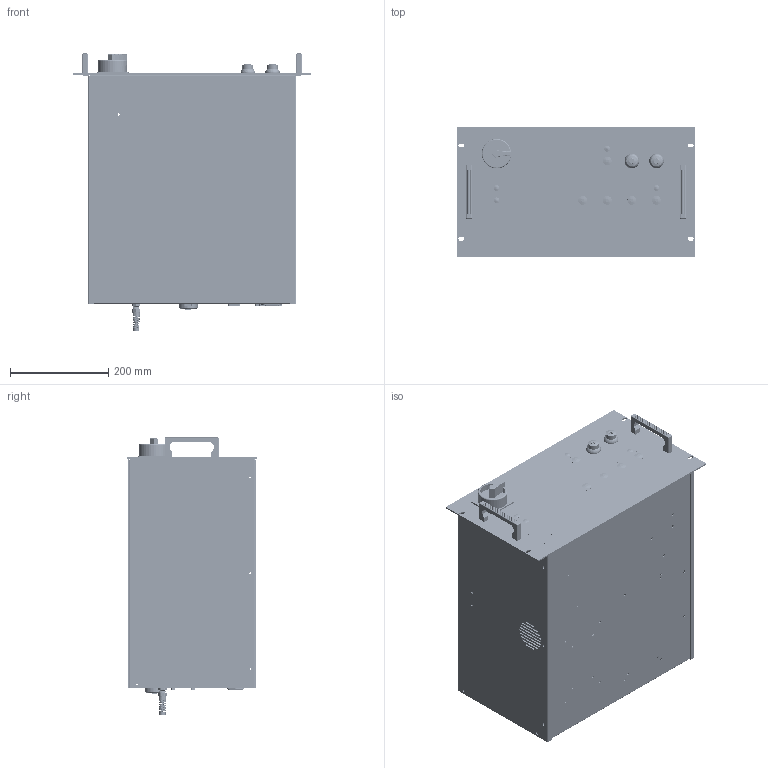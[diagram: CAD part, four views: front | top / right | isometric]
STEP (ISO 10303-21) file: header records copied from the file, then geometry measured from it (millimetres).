
FILE_DESCRIPTION (( 'STEP AP203' ), '1' );
FILE_NAME ('7 400 038 + 7 400 035.STEP', '2012-02-16T10:39:59', ( 'Sic Marking' ), ( '' ), 'SwSTEP 2.0', 'SolidWorks 2011', '' );
FILE_SCHEMA (( 'CONFIG_CONTROL_DESIGN' ));
Products named in the file (1): 7 400 038 + 7 400 035
Bounding box: 483 x 265.9 x 563.1 mm (x, y, z)
Volume: 1953461.6 mm3; surface area: 1979635.4 mm2
Topology: 317 solids, 317 shells, 11087 faces, 28284 edges, 18366 vertices
Faces by surface type: plane 6259, cylinder 2190, bspline 1915, torus 333, cone 328, sphere 62
Entity records: 442202 total; most frequent: CARTESIAN_POINT 182911, ORIENTED_EDGE 56304, DIRECTION 47765, EDGE_CURVE 28152, LINE 18575, VECTOR 18575, VERTEX_POINT 18316, AXIS2_PLACEMENT_3D 14595
